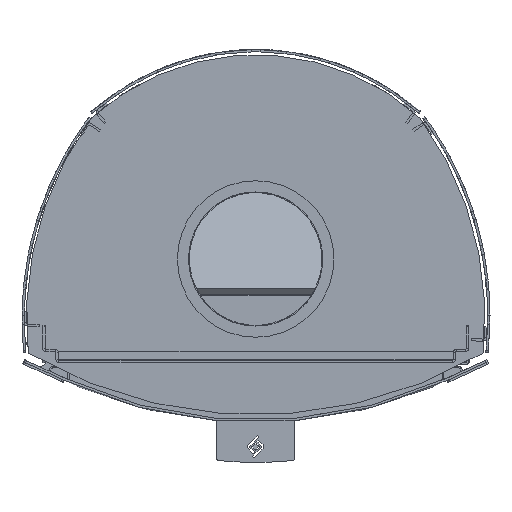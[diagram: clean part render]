
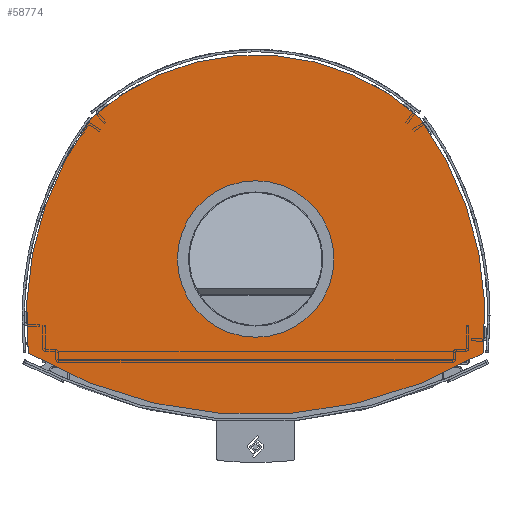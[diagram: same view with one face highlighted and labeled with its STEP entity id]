
A CAD part, front view. The second image highlights one B-rep face of the part: STEP entity #58774.
In plain terms, the highlighted planar face has unit normal (0, -1, 0) as drawn and (0, 0, 1) by its records, which use the part's own axes.
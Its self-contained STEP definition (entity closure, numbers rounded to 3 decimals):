
#911 = FACE_BOUND ( 'NONE', #105635, .T. ) ;
#1639 = EDGE_CURVE ( 'NONE', #65544, #65544, #52918, .T. ) ;
#2076 = DIRECTION ( 'NONE',  ( 0., 0., 1. ) ) ;
#4298 = EDGE_CURVE ( 'NONE', #45756, #71277, #34432, .T. ) ;
#6697 = CARTESIAN_POINT ( 'NONE',  ( 218.276, 187.14, 1284. ) ) ;
#6847 = DIRECTION ( 'NONE',  ( 0., 0., 1. ) ) ;
#8572 = CARTESIAN_POINT ( 'NONE',  ( -305.267, -124.597, 1284. ) ) ;
#9288 = EDGE_CURVE ( 'NONE', #45756, #78387, #16742, .T. ) ;
#12818 = AXIS2_PLACEMENT_3D ( 'NONE', #61730, #106017, #89291 ) ;
#15756 = CARTESIAN_POINT ( 'NONE',  ( -303.794, -126.882, 1284. ) ) ;
#16742 = CIRCLE ( 'NONE', #37724, 3. ) ;
#17609 = ORIENTED_EDGE ( 'NONE', *, *, #35460, .T. ) ;
#17722 = CIRCLE ( 'NONE', #74950, 454. ) ;
#18091 = AXIS2_PLACEMENT_3D ( 'NONE', #6697, #53366, #43169 ) ;
#18422 = CIRCLE ( 'NONE', #100476, 454. ) ;
#19344 = ORIENTED_EDGE ( 'NONE', *, *, #36819, .T. ) ;
#19696 = DIRECTION ( 'NONE',  ( 0., 1., 0. ) ) ;
#22555 = EDGE_CURVE ( 'NONE', #78387, #62186, #17722, .T. ) ;
#23555 = ORIENTED_EDGE ( 'NONE', *, *, #9288, .T. ) ;
#26797 = VERTEX_POINT ( 'NONE', #98940 ) ;
#28462 = DIRECTION ( 'NONE',  ( 0., 1., 0. ) ) ;
#30427 = DIRECTION ( 'NONE',  ( 0., 0., 1. ) ) ;
#30855 = EDGE_LOOP ( 'NONE', ( #19344, #114015, #17609, #53977, #85313, #23555, #118089, #59076 ) ) ;
#34095 = CIRCLE ( 'NONE', #114294, 329. ) ;
#34414 = AXIS2_PLACEMENT_3D ( 'NONE', #44612, #80440, #28462 ) ;
#34432 = CIRCLE ( 'NONE', #64969, 603. ) ;
#34803 = ORIENTED_EDGE ( 'NONE', *, *, #1639, .F. ) ;
#35170 = CARTESIAN_POINT ( 'NONE',  ( 146.363, -78.265, 1284. ) ) ;
#35460 = EDGE_CURVE ( 'NONE', #26797, #99696, #18422, .T. ) ;
#36725 = AXIS2_PLACEMENT_3D ( 'NONE', #48353, #30427, #19696 ) ;
#36819 = EDGE_CURVE ( 'NONE', #117691, #54824, #34095, .T. ) ;
#37724 = AXIS2_PLACEMENT_3D ( 'NONE', #81120, #6847, #96001 ) ;
#38440 = CARTESIAN_POINT ( 'NONE',  ( 0., -55., 1284. ) ) ;
#38545 = DIRECTION ( 'NONE',  ( 0., 1., 0. ) ) ;
#41917 = CARTESIAN_POINT ( 'NONE',  ( 220.285, 189.368, 1284. ) ) ;
#43169 = DIRECTION ( 'NONE',  ( 0., 1., 0. ) ) ;
#44612 = CARTESIAN_POINT ( 'NONE',  ( 73.181, -66.632, 1284. ) ) ;
#45756 = VERTEX_POINT ( 'NONE', #93712 ) ;
#48026 = DIRECTION ( 'NONE',  ( 0., 0., 1. ) ) ;
#48353 = CARTESIAN_POINT ( 'NONE',  ( -218.276, 187.14, 1284. ) ) ;
#50918 = CARTESIAN_POINT ( 'NONE',  ( 0., 394., 1284. ) ) ;
#52918 = CIRCLE ( 'NONE', #12818, 105. ) ;
#53366 = DIRECTION ( 'NONE',  ( 0., 0., 1. ) ) ;
#53728 = DIRECTION ( 'NONE',  ( 0., 0., 1. ) ) ;
#53977 = ORIENTED_EDGE ( 'NONE', *, *, #66510, .T. ) ;
#54824 = VERTEX_POINT ( 'NONE', #111215 ) ;
#57234 = CARTESIAN_POINT ( 'NONE',  ( 0., -105., 1284. ) ) ;
#58774 = ADVANCED_FACE ( 'NONE', ( #99013, #911 ), #109103, .F. ) ;
#59076 = ORIENTED_EDGE ( 'NONE', *, *, #112608, .T. ) ;
#61730 = CARTESIAN_POINT ( 'NONE',  ( 0., 0., 1284. ) ) ;
#62186 = VERTEX_POINT ( 'NONE', #65039 ) ;
#63190 = DIRECTION ( 'NONE',  ( 0., 0., 1. ) ) ;
#64969 = AXIS2_PLACEMENT_3D ( 'NONE', #50918, #69916, #70541 ) ;
#65039 = CARTESIAN_POINT ( 'NONE',  ( 220.701, 188.905, 1284. ) ) ;
#65544 = VERTEX_POINT ( 'NONE', #57234 ) ;
#66510 = EDGE_CURVE ( 'NONE', #99696, #71277, #71327, .T. ) ;
#69916 = DIRECTION ( 'NONE',  ( 0., 0., -1. ) ) ;
#70541 = DIRECTION ( 'NONE',  ( 0., 1., 0. ) ) ;
#71277 = VERTEX_POINT ( 'NONE', #15756 ) ;
#71327 = CIRCLE ( 'NONE', #80859, 3. ) ;
#74950 = AXIS2_PLACEMENT_3D ( 'NONE', #83336, #2076, #38545 ) ;
#78387 = VERTEX_POINT ( 'NONE', #83086 ) ;
#80440 = DIRECTION ( 'NONE',  ( 0., 0., -1. ) ) ;
#80859 = AXIS2_PLACEMENT_3D ( 'NONE', #92517, #63190, #91917 ) ;
#81120 = CARTESIAN_POINT ( 'NONE',  ( 302.282, -124.291, 1284. ) ) ;
#83086 = CARTESIAN_POINT ( 'NONE',  ( 305.267, -124.597, 1284. ) ) ;
#83336 = CARTESIAN_POINT ( 'NONE',  ( -146.363, -78.265, 1284. ) ) ;
#85313 = ORIENTED_EDGE ( 'NONE', *, *, #4298, .F. ) ;
#89291 = DIRECTION ( 'NONE',  ( 0., -1., 0. ) ) ;
#91917 = DIRECTION ( 'NONE',  ( 0., 1., 0. ) ) ;
#92517 = CARTESIAN_POINT ( 'NONE',  ( -302.282, -124.291, 1284. ) ) ;
#93712 = CARTESIAN_POINT ( 'NONE',  ( 303.794, -126.882, 1284. ) ) ;
#94402 = CIRCLE ( 'NONE', #18091, 3. ) ;
#94640 = DIRECTION ( 'NONE',  ( 0., 1., 0. ) ) ;
#94981 = EDGE_CURVE ( 'NONE', #54824, #26797, #105454, .T. ) ;
#96001 = DIRECTION ( 'NONE',  ( 0., 1., 0. ) ) ;
#98940 = CARTESIAN_POINT ( 'NONE',  ( -220.701, 188.905, 1284. ) ) ;
#99013 = FACE_OUTER_BOUND ( 'NONE', #30855, .T. ) ;
#99696 = VERTEX_POINT ( 'NONE', #8572 ) ;
#100476 = AXIS2_PLACEMENT_3D ( 'NONE', #35170, #53728, #117047 ) ;
#105454 = CIRCLE ( 'NONE', #36725, 3. ) ;
#105635 = EDGE_LOOP ( 'NONE', ( #34803 ) ) ;
#106017 = DIRECTION ( 'NONE',  ( 0., 0., 1. ) ) ;
#109103 = PLANE ( 'NONE',  #34414 ) ;
#111215 = CARTESIAN_POINT ( 'NONE',  ( -220.285, 189.368, 1284. ) ) ;
#112608 = EDGE_CURVE ( 'NONE', #62186, #117691, #94402, .T. ) ;
#114015 = ORIENTED_EDGE ( 'NONE', *, *, #94981, .T. ) ;
#114294 = AXIS2_PLACEMENT_3D ( 'NONE', #38440, #48026, #94640 ) ;
#117047 = DIRECTION ( 'NONE',  ( 0., 1., 0. ) ) ;
#117691 = VERTEX_POINT ( 'NONE', #41917 ) ;
#118089 = ORIENTED_EDGE ( 'NONE', *, *, #22555, .T. ) ;
